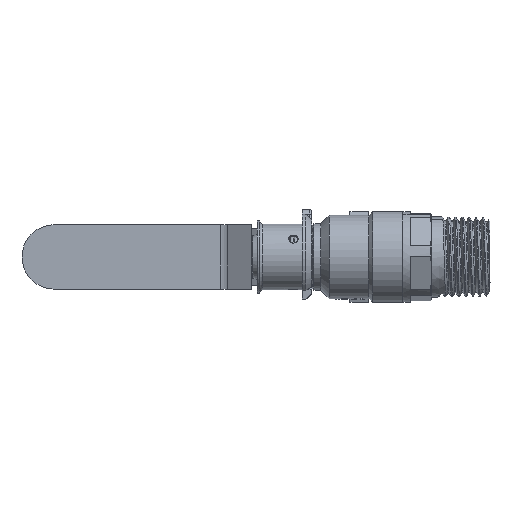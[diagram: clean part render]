
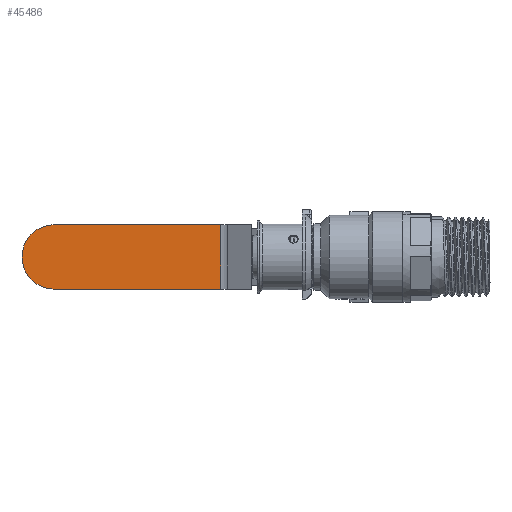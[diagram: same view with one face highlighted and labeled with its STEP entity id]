
A CAD part, front view. The second image highlights one B-rep face of the part: STEP entity #45486.
In plain terms, the highlighted planar face has unit normal (0, -1, 0) as drawn and (0, 0, -1) by its records, which use the part's own axes.
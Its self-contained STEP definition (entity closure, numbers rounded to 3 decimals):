
#684 = ORIENTED_EDGE ( 'NONE', *, *, #7964, .T. ) ;
#1058 = CARTESIAN_POINT ( 'NONE',  ( 36.668, 8.5, 14.579 ) ) ;
#2507 = VECTOR ( 'NONE', #22300, 1000. ) ;
#3498 = LINE ( 'NONE', #25696, #22377 ) ;
#3805 = CARTESIAN_POINT ( 'NONE',  ( 80.604, -8.5, 14.579 ) ) ;
#4774 = ORIENTED_EDGE ( 'NONE', *, *, #16699, .F. ) ;
#4857 = AXIS2_PLACEMENT_3D ( 'NONE', #7058, #43514, #32668 ) ;
#5701 = CARTESIAN_POINT ( 'NONE',  ( 36.668, 8.5, 14.579 ) ) ;
#7058 = CARTESIAN_POINT ( 'NONE',  ( 80.604, 0., 14.579 ) ) ;
#7964 = EDGE_CURVE ( 'NONE', #8670, #37167, #27125, .T. ) ;
#8670 = VERTEX_POINT ( 'NONE', #41311 ) ;
#9166 = ORIENTED_EDGE ( 'NONE', *, *, #10931, .F. ) ;
#10931 = EDGE_CURVE ( 'NONE', #11667, #23398, #24754, .T. ) ;
#11667 = VERTEX_POINT ( 'NONE', #43377 ) ;
#12111 = PLANE ( 'NONE',  #13176 ) ;
#13057 = ORIENTED_EDGE ( 'NONE', *, *, #17182, .T. ) ;
#13176 = AXIS2_PLACEMENT_3D ( 'NONE', #1058, #19771, #16106 ) ;
#15590 = CARTESIAN_POINT ( 'NONE',  ( 89.104, 0., 14.579 ) ) ;
#15920 = DIRECTION ( 'NONE',  ( 1., 0., 0. ) ) ;
#16106 = DIRECTION ( 'NONE',  ( -1., 0., 0. ) ) ;
#16386 = VERTEX_POINT ( 'NONE', #36993 ) ;
#16699 = EDGE_CURVE ( 'NONE', #16386, #11667, #3498, .T. ) ;
#17182 = EDGE_CURVE ( 'NONE', #16386, #8670, #33179, .T. ) ;
#18999 = AXIS2_PLACEMENT_3D ( 'NONE', #36124, #32756, #21499 ) ;
#19771 = DIRECTION ( 'NONE',  ( 0., 0., -1. ) ) ;
#21426 = DIRECTION ( 'NONE',  ( 0., -1., 0. ) ) ;
#21499 = DIRECTION ( 'NONE',  ( -1., 0., 0. ) ) ;
#22300 = DIRECTION ( 'NONE',  ( 1., 0., 0. ) ) ;
#22377 = VECTOR ( 'NONE', #21426, 1000. ) ;
#23289 = EDGE_LOOP ( 'NONE', ( #13057, #684, #33772, #9166, #4774 ) ) ;
#23398 = VERTEX_POINT ( 'NONE', #3805 ) ;
#24754 = LINE ( 'NONE', #40269, #2507 ) ;
#25696 = CARTESIAN_POINT ( 'NONE',  ( 36.668, 8.5, 14.579 ) ) ;
#27125 = CIRCLE ( 'NONE', #18999, 8.5 ) ;
#31458 = VECTOR ( 'NONE', #15920, 1000. ) ;
#32487 = CIRCLE ( 'NONE', #4857, 8.5 ) ;
#32668 = DIRECTION ( 'NONE',  ( -1., 0., 0. ) ) ;
#32756 = DIRECTION ( 'NONE',  ( 0., 0., -1. ) ) ;
#33179 = LINE ( 'NONE', #5701, #31458 ) ;
#33772 = ORIENTED_EDGE ( 'NONE', *, *, #42287, .T. ) ;
#36124 = CARTESIAN_POINT ( 'NONE',  ( 80.604, 0., 14.579 ) ) ;
#36993 = CARTESIAN_POINT ( 'NONE',  ( 36.668, 8.5, 14.579 ) ) ;
#37167 = VERTEX_POINT ( 'NONE', #15590 ) ;
#40269 = CARTESIAN_POINT ( 'NONE',  ( 36.668, -8.5, 14.579 ) ) ;
#41311 = CARTESIAN_POINT ( 'NONE',  ( 80.604, 8.5, 14.579 ) ) ;
#42287 = EDGE_CURVE ( 'NONE', #37167, #23398, #32487, .T. ) ;
#43237 = FACE_OUTER_BOUND ( 'NONE', #23289, .T. ) ;
#43377 = CARTESIAN_POINT ( 'NONE',  ( 36.668, -8.5, 14.579 ) ) ;
#43514 = DIRECTION ( 'NONE',  ( 0., 0., -1. ) ) ;
#45486 = ADVANCED_FACE ( 'NONE', ( #43237 ), #12111, .T. ) ;
